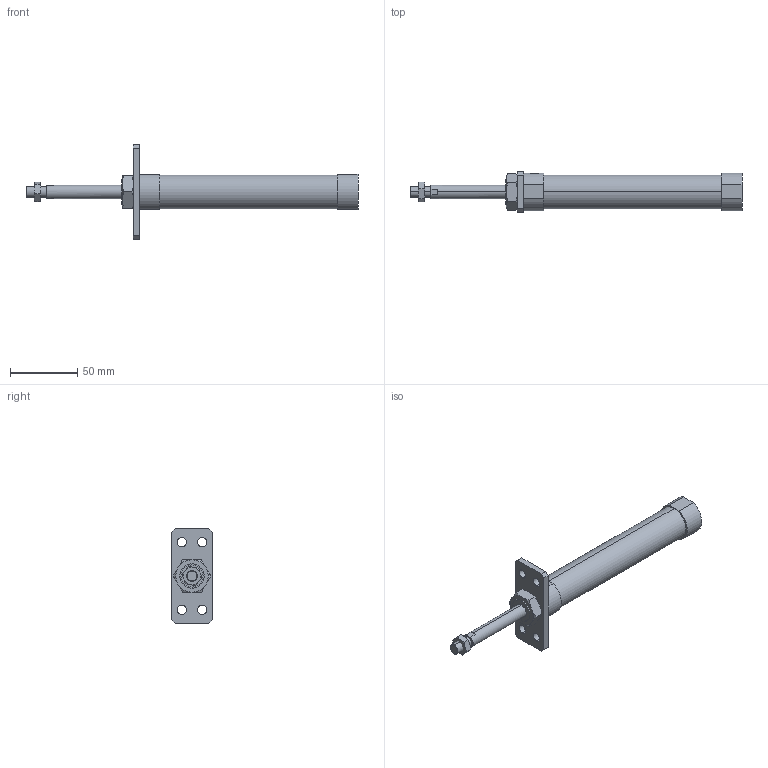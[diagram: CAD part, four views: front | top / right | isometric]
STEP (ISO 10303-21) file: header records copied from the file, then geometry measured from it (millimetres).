
FILE_DESCRIPTION (( 'STEP AP203' ), '1' );
FILE_NAME ('JGND0-20-50-A.STEP', '2016-08-04T02:06:56', ( '' ), ( '' ), 'SwSTEP 2.0', 'SolidWorks 2014', '' );
FILE_SCHEMA (( 'CONFIG_CONTROL_DESIGN' ));
Length unit declared in the file: millimetre
Products named in the file (5): J#2-20-A; J#0-20-50(P); JGND0-20-50-A
Assembly tree (4 placements, depth 2):
  JGND0-20-50-A
    J#0-20-50(P)
    (unnamed)
    (unnamed)
    J#2-20-A
Bounding box: 246 x 30 x 70 mm (x, y, z)
Volume: 100833.9 mm3; surface area: 24628.3 mm2
Topology: 4 solids, 4 shells, 101 faces, 230 edges, 144 vertices
Faces by surface type: plane 43, cylinder 30, torus 24, cone 4
Entity records: 3663 total; most frequent: CARTESIAN_POINT 872, DIRECTION 482, ORIENTED_EDGE 460, EDGE_CURVE 230, AXIS2_PLACEMENT_3D 198, VERTEX_POINT 144, EDGE_LOOP 122, FACE_OUTER_BOUND 101
